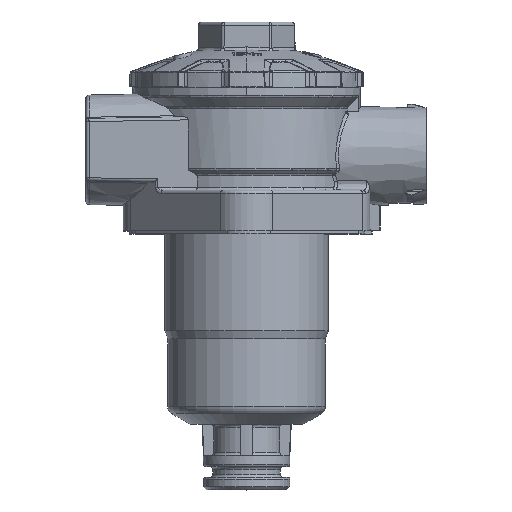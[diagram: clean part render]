
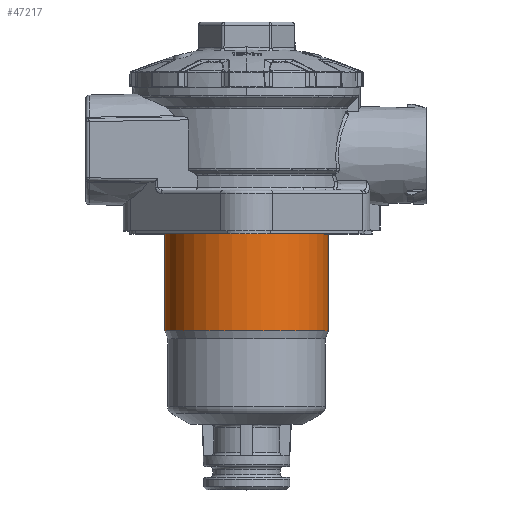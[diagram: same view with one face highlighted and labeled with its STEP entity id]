
A CAD part, top view. The second image highlights one B-rep face of the part: STEP entity #47217.
In plain terms, the highlighted cylindrical face has radius 26.2 mm (diameter 52.4 mm), a partial arc.
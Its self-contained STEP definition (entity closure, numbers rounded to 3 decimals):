
#15743=CARTESIAN_POINT('',(0.,0.88,
0.));
#15744=DIRECTION('',(0.,-1.,0.));
#15745=DIRECTION('',(1.,0.,0.));
#15746=AXIS2_PLACEMENT_3D('',#15743,#15744,#15745);
#15766=DIRECTION('',(0.,-1.,0.));
#15767=VECTOR('',#15766,33.48);
#15768=CARTESIAN_POINT('',(26.2,0.88,0.));
#15769=LINE('',#15768,#15767);
#15773=DIRECTION('',(0.,-1.,0.));
#15774=VECTOR('',#15773,33.48);
#15775=CARTESIAN_POINT('',(-26.2,0.88,0.));
#15776=LINE('',#15775,#15774);
#15780=CARTESIAN_POINT('',(0.,-32.6,0.));
#15781=DIRECTION('',(0.,1.,0.));
#15782=DIRECTION('',(-1.,0.,0.));
#15783=AXIS2_PLACEMENT_3D('',#15780,#15781,#15782);
#29496=CARTESIAN_POINT('',(-26.2,-32.6,0.));
#29497=VERTEX_POINT('',#29496);
#29498=CARTESIAN_POINT('',(26.2,-32.6,0.));
#29499=VERTEX_POINT('',#29498);
#29500=CARTESIAN_POINT('',(-26.2,0.88,0.));
#29501=VERTEX_POINT('',#29500);
#29502=CARTESIAN_POINT('',(26.2,0.88,0.));
#29503=VERTEX_POINT('',#29502);
#47205=CARTESIAN_POINT('',(0.,-15.86,
0.));
#47206=DIRECTION('',(0.,-1.,0.));
#47207=DIRECTION('',(-1.,0.,0.));
#47208=AXIS2_PLACEMENT_3D('',#47205,#47206,#47207);
#47209=CYLINDRICAL_SURFACE('',#47208,26.2);
#47210=ORIENTED_EDGE('',*,*,#47170,.F.);
#47211=ORIENTED_EDGE('',*,*,#47200,.T.);
#47213=ORIENTED_EDGE('',*,*,#47212,.F.);
#47214=ORIENTED_EDGE('',*,*,#47196,.F.);
#47215=EDGE_LOOP('',(#47210,#47211,#47213,#47214));
#47216=FACE_OUTER_BOUND('',#47215,.F.);
#15747=CIRCLE('',#15746,26.2);
#15784=CIRCLE('',#15783,26.2);
#47170=EDGE_CURVE('',#29503,#29501,#15747,.T.);
#47196=EDGE_CURVE('',#29501,#29497,#15776,.T.);
#47200=EDGE_CURVE('',#29503,#29499,#15769,.T.);
#47212=EDGE_CURVE('',#29497,#29499,#15784,.T.);
#47217=ADVANCED_FACE('',(#47216),#47209,.T.);
